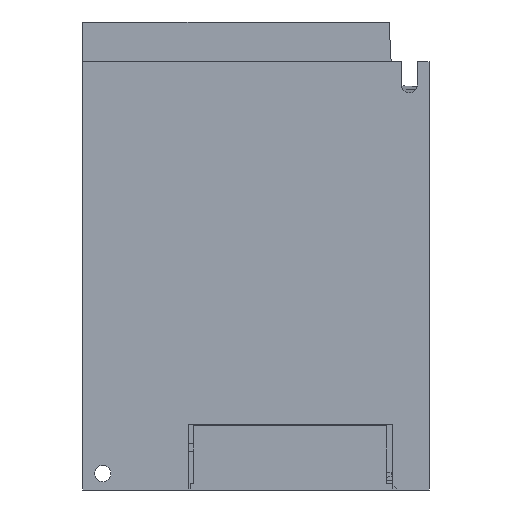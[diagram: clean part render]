
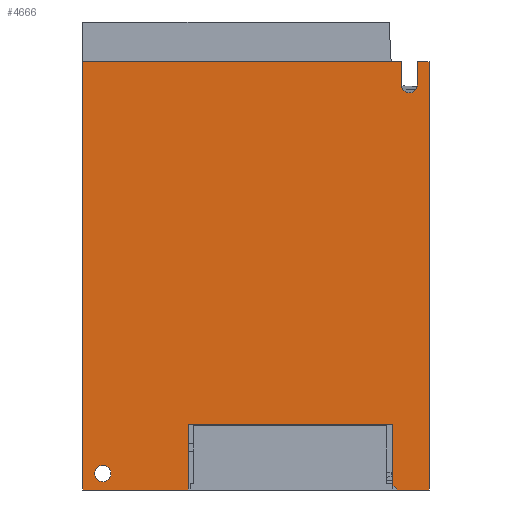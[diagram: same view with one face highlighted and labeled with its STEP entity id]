
A CAD part, front view. The second image highlights one B-rep face of the part: STEP entity #4666.
In plain terms, the highlighted planar face has unit normal (0, -1, 0).
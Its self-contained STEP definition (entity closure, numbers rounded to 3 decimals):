
#4666=ADVANCED_FACE('NONE',(#12015,#12016),#12017,.T.);
#12015=FACE_OUTER_BOUND('',#23398,.T.);
#12016=FACE_BOUND('',#23399,.T.);
#12017=PLANE('',#23400);
#23398=EDGE_LOOP('',(#38068,#38069,#38070,#38071,#38072,#38073,#38074,#38075,#38076,#38077,#38078,#38079,#38080,#38081));
#23399=EDGE_LOOP('',(#38082,#38083));
#23400=AXIS2_PLACEMENT_3D('',#38084,#38085,#38086);
#38068=ORIENTED_EDGE('',*,*,#65622,.T.);
#38069=ORIENTED_EDGE('',*,*,#65606,.T.);
#38070=ORIENTED_EDGE('',*,*,#65623,.T.);
#38071=ORIENTED_EDGE('',*,*,#65624,.T.);
#38072=ORIENTED_EDGE('',*,*,#65625,.T.);
#38073=ORIENTED_EDGE('',*,*,#65626,.T.);
#38074=ORIENTED_EDGE('',*,*,#65627,.T.);
#38075=ORIENTED_EDGE('',*,*,#65628,.T.);
#38076=ORIENTED_EDGE('',*,*,#65629,.T.);
#38077=ORIENTED_EDGE('',*,*,#65630,.T.);
#38078=ORIENTED_EDGE('',*,*,#65631,.T.);
#38079=ORIENTED_EDGE('',*,*,#65632,.T.);
#38080=ORIENTED_EDGE('',*,*,#65633,.T.);
#38081=ORIENTED_EDGE('',*,*,#65634,.T.);
#38082=ORIENTED_EDGE('',*,*,#65635,.T.);
#38083=ORIENTED_EDGE('',*,*,#65610,.T.);
#38084=CARTESIAN_POINT('',(-52.5,0.0,0.0));
#38085=DIRECTION('',(0.0,-1.0,0.0));
#38086=DIRECTION('',(0.0,0.0,-1.0));
#65606=EDGE_CURVE('NONE',#79109,#79106,#79110,.T.);
#65610=EDGE_CURVE('NONE',#79115,#79116,#79117,.T.);
#65622=EDGE_CURVE('NONE',#79137,#79109,#79138,.T.);
#65623=EDGE_CURVE('NONE',#79106,#79139,#79140,.T.);
#65624=EDGE_CURVE('NONE',#79139,#79141,#79142,.T.);
#65625=EDGE_CURVE('NONE',#79141,#79143,#79144,.T.);
#65626=EDGE_CURVE('NONE',#79143,#79145,#79146,.T.);
#65627=EDGE_CURVE('NONE',#79145,#79147,#79148,.T.);
#65628=EDGE_CURVE('NONE',#79147,#79149,#79150,.T.);
#65629=EDGE_CURVE('NONE',#79149,#79151,#79152,.T.);
#65630=EDGE_CURVE('NONE',#79151,#79153,#79154,.T.);
#65631=EDGE_CURVE('NONE',#79153,#79155,#79156,.T.);
#65632=EDGE_CURVE('NONE',#79155,#79157,#79158,.T.);
#65633=EDGE_CURVE('NONE',#79157,#79159,#79160,.T.);
#65634=EDGE_CURVE('NONE',#79159,#79137,#79161,.T.);
#65635=EDGE_CURVE('NONE',#79116,#79115,#79162,.T.);
#79106=VERTEX_POINT('',#99288);
#79109=VERTEX_POINT('NONE',#99292);
#79110=CIRCLE('',#99293,2.5);
#79115=VERTEX_POINT('NONE',#99299);
#79116=VERTEX_POINT('NONE',#99300);
#79117=CIRCLE('',#99301,2.5);
#79137=VERTEX_POINT('NONE',#99390);
#79138=LINE('',#99391,#99392);
#79139=VERTEX_POINT('NONE',#99393);
#79140=CIRCLE('',#99394,2.5);
#79141=VERTEX_POINT('NONE',#99395);
#79142=LINE('',#99396,#99397);
#79143=VERTEX_POINT('NONE',#99398);
#79144=LINE('',#99399,#99400);
#79145=VERTEX_POINT('NONE',#99401);
#79146=LINE('',#99402,#99403);
#79147=VERTEX_POINT('NONE',#99404);
#79148=LINE('',#99405,#99406);
#79149=VERTEX_POINT('NONE',#99407);
#79150=LINE('',#99408,#99409);
#79151=VERTEX_POINT('NONE',#99410);
#79152=LINE('',#99411,#99412);
#79153=VERTEX_POINT('NONE',#99413);
#79154=LINE('',#99414,#99415);
#79155=VERTEX_POINT('NONE',#99416);
#79156=LINE('',#99417,#99418);
#79157=VERTEX_POINT('NONE',#99419);
#79158=LINE('',#99420,#99421);
#79159=VERTEX_POINT('NONE',#99422);
#79160=LINE('',#99423,#99424);
#79161=LINE('',#99425,#99426);
#79162=CIRCLE('',#99427,2.5);
#99288=CARTESIAN_POINT('',(46.5,0.0,120.5));
#99292=CARTESIAN_POINT('',(49.0,0.0,123.0));
#99293=AXIS2_PLACEMENT_3D('',#123999,#124000,#124001);
#99299=CARTESIAN_POINT('',(-46.5,0.0,2.5));
#99300=CARTESIAN_POINT('',(-46.5,0.0,7.5));
#99301=AXIS2_PLACEMENT_3D('',#124006,#124007,#124008);
#99390=CARTESIAN_POINT('',(49.0,0.0,130.0));
#99391=CARTESIAN_POINT('',(49.0,0.0,0.0));
#99392=VECTOR('',#124016,1000.0);
#99393=CARTESIAN_POINT('',(44.0,0.0,123.0));
#99394=AXIS2_PLACEMENT_3D('',#124017,#124018,#124019);
#99395=CARTESIAN_POINT('',(44.0,0.0,130.0));
#99396=CARTESIAN_POINT('',(44.0,0.0,0.0));
#99397=VECTOR('',#124020,1000.0);
#99398=CARTESIAN_POINT('',(-52.5,0.0,130.0));
#99399=CARTESIAN_POINT('',(-52.5,0.0,130.0));
#99400=VECTOR('',#124021,1000.0);
#99401=CARTESIAN_POINT('',(-52.5,0.0,0.0));
#99402=CARTESIAN_POINT('',(-52.5,0.0,0.0));
#99403=VECTOR('',#124022,1000.0);
#99404=CARTESIAN_POINT('',(-20.5,0.0,0.0));
#99405=CARTESIAN_POINT('',(-52.5,0.0,0.0));
#99406=VECTOR('',#124023,1000.0);
#99407=CARTESIAN_POINT('',(-20.5,0.0,20.0));
#99408=CARTESIAN_POINT('',(-20.5,0.0,0.0));
#99409=VECTOR('',#124024,1000.0);
#99410=CARTESIAN_POINT('',(41.5,0.0,20.0));
#99411=CARTESIAN_POINT('',(-52.5,0.0,20.0));
#99412=VECTOR('',#124025,1000.0);
#99413=CARTESIAN_POINT('',(41.5,0.0,1.5));
#99414=CARTESIAN_POINT('',(41.5,0.0,0.0));
#99415=VECTOR('',#124026,1000.0);
#99416=CARTESIAN_POINT('',(43.0,0.0,0.0));
#99417=CARTESIAN_POINT('',(41.5,0.0,1.5));
#99418=VECTOR('',#124027,1000.0);
#99419=CARTESIAN_POINT('',(52.5,0.0,0.0));
#99420=CARTESIAN_POINT('',(-52.5,0.0,0.0));
#99421=VECTOR('',#124028,1000.0);
#99422=CARTESIAN_POINT('',(52.5,0.0,130.0));
#99423=CARTESIAN_POINT('',(52.5,0.0,0.0));
#99424=VECTOR('',#124029,1000.0);
#99425=CARTESIAN_POINT('',(-52.5,0.0,130.0));
#99426=VECTOR('',#124030,1000.0);
#99427=AXIS2_PLACEMENT_3D('',#124031,#124032,#124033);
#123999=CARTESIAN_POINT('',(46.5,0.0,123.0));
#124000=DIRECTION('',(0.0,1.0,0.0));
#124001=DIRECTION('',(0.0,0.0,1.0));
#124006=CARTESIAN_POINT('',(-46.5,0.0,5.0));
#124007=DIRECTION('',(0.0,1.0,0.0));
#124008=DIRECTION('',(0.0,0.0,1.0));
#124016=DIRECTION('',(0.0,-0.0,-1.0));
#124017=CARTESIAN_POINT('',(46.5,0.0,123.0));
#124018=DIRECTION('',(0.0,1.0,0.0));
#124019=DIRECTION('',(0.0,0.0,1.0));
#124020=DIRECTION('',(-0.0,0.0,1.0));
#124021=DIRECTION('',(-1.0,-0.0,-0.0));
#124022=DIRECTION('',(0.0,-0.0,-1.0));
#124023=DIRECTION('',(1.0,0.0,0.0));
#124024=DIRECTION('',(-0.0,0.0,1.0));
#124025=DIRECTION('',(1.0,0.0,0.0));
#124026=DIRECTION('',(0.0,-0.0,-1.0));
#124027=DIRECTION('',(0.707,0.0,-0.707));
#124028=DIRECTION('',(1.0,0.0,0.0));
#124029=DIRECTION('',(-0.0,0.0,1.0));
#124030=DIRECTION('',(-1.0,-0.0,-0.0));
#124031=CARTESIAN_POINT('',(-46.5,0.0,5.0));
#124032=DIRECTION('',(0.0,1.0,0.0));
#124033=DIRECTION('',(0.0,0.0,1.0));
